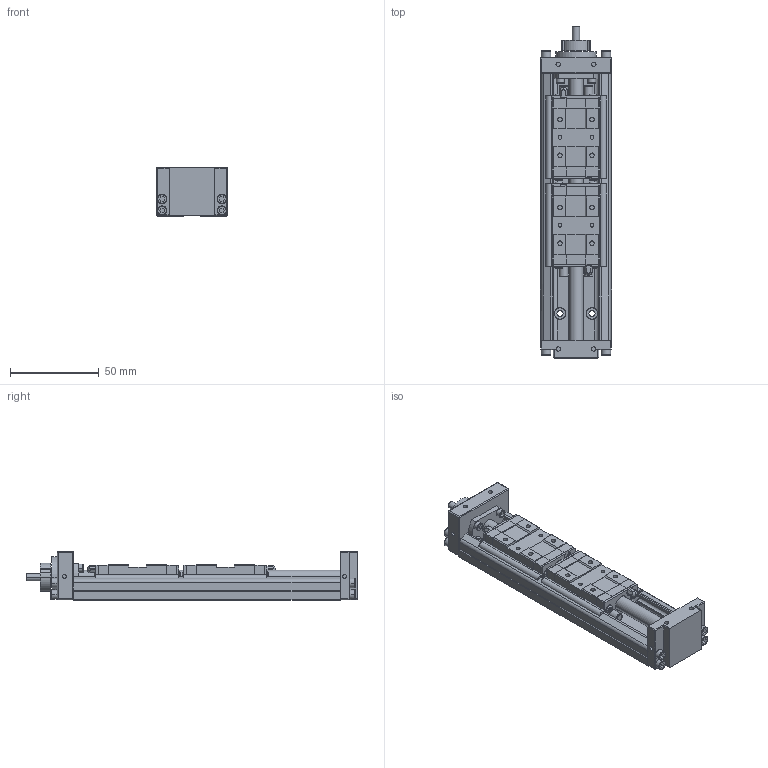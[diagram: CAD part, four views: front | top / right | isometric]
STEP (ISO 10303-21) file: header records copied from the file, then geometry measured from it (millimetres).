
FILE_DESCRIPTION(('no description'),'unknown implementation level');
FILE_NAME('KK4001P150A2H0000_FILE_10.stp',' ',('HIWIN GmbH'),('CADClick - KiM GmbH - www.kimweb.de'),'unknown preprocess','ACIS','unknown authorization');
FILE_SCHEMA(('automotive_design'));
Length unit declared in the file: millimetre
Products named in the file (3): KK4001P150A2H0000_FILE_1; KK40_FILE; KK4001P150A2H0000_FILE
Bounding box: 40 x 186.5 x 27.5 mm (x, y, z)
Volume: 101812.3 mm3; surface area: 45690.4 mm2
Topology: 3 solids, 19 shells, 1066 faces, 2738 edges, 1764 vertices
Faces by surface type: plane 687, cylinder 323, torus 52, sphere 4
Entity records: 64428 total; most frequent: CARTESIAN_POINT 6679, DIRECTION 5662, STYLED_ITEM 5571, PRESENTATION_STYLE_ASSIGNMENT 5571, COLOUR_RGB 5571, ORIENTED_EDGE 5476, EDGE_CURVE 2738, CURVE_STYLE 2738
